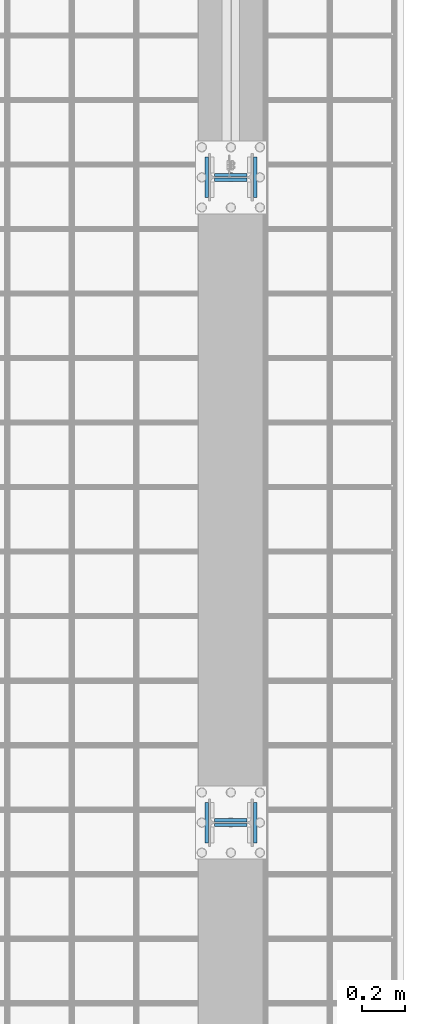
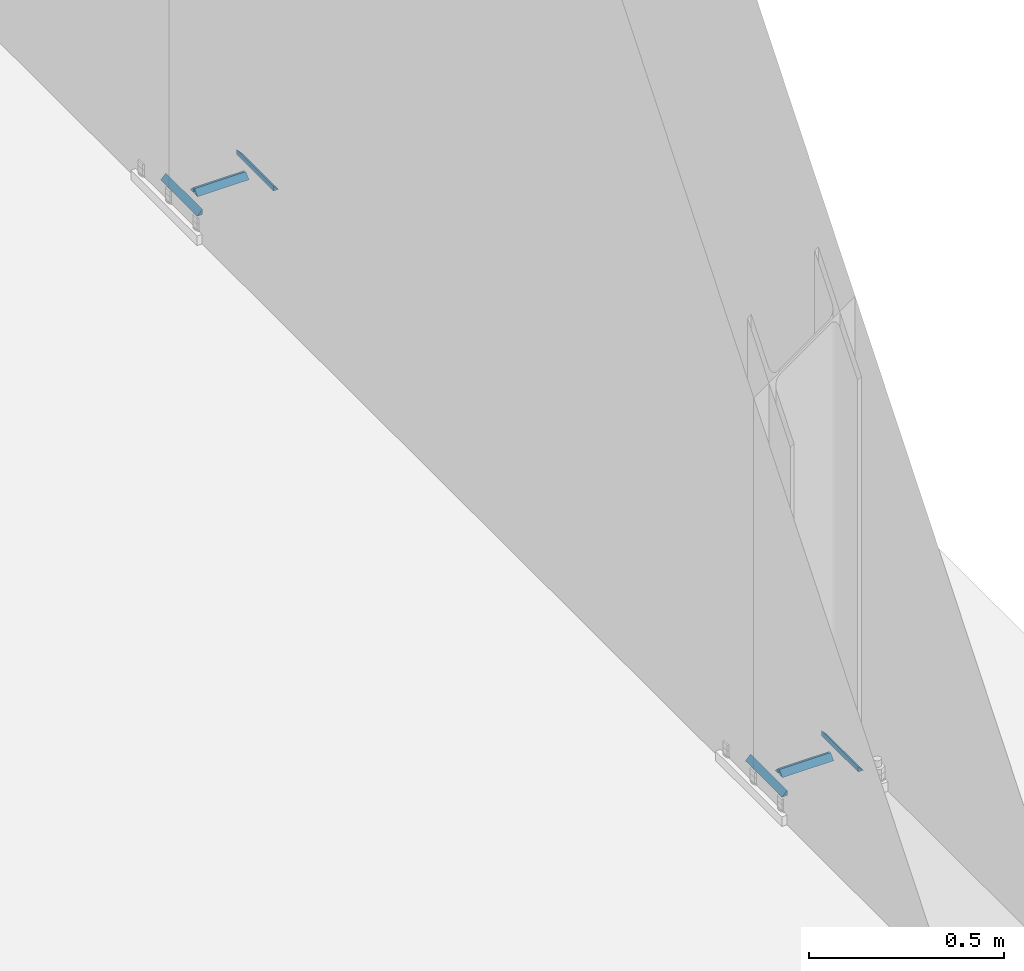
# One storey, part 10 of 29: 16 fasteners.
"""IFC4 building model written with IfcOpenShell, lengths in metres."""

import ifcopenshell
import ifcopenshell.guid

model = None  # the IFC model being written
_history = None  # IfcOwnerHistory: only IFC2X3 demands one
_inside = {}  # id of a spatial element -> (the spatial element, [elements in it])
_under = {}  # id of a project, library or spatial element -> (it, [spatial elements below it])
_declared = {}  # id of a project -> (the project, [libraries it declares])
_typed = {}  # id of a type object -> (the type object, [elements of that type])
_made_of = {}  # id of a material, layer set ... -> (it, [elements and type objects made of it])


def new_model(schema):
    """Start an empty IFC model of exactly this schema.

    Asked for "IFC4X3", IfcOpenShell would pick the latest addendum, in which some entities
    have other attributes; the version numbers below select the first issue.
    IFC2X3 requires an IfcOwnerHistory on every rooted entity: one is made here for all.
    """
    global model, _history
    if schema == "IFC4X3":
        model = ifcopenshell.file(schema_version=(4, 3, 0, 0))
    else:
        model = ifcopenshell.file(schema=schema)
    _inside.clear()
    _under.clear()
    _declared.clear()
    _typed.clear()
    _made_of.clear()
    _history = None
    if model.schema == "IFC2X3":
        org = make("IfcOrganization", Name="unknown")
        user = make(
            "IfcPersonAndOrganization",
            ThePerson=make("IfcPerson", FamilyName="unknown"),
            TheOrganization=org,
        )
        app = make(
            "IfcApplication",
            ApplicationDeveloper=org,
            Version="unknown",
            ApplicationFullName="unknown",
            ApplicationIdentifier="unknown",
        )
        _history = make(
            "IfcOwnerHistory",
            OwningUser=user,
            OwningApplication=app,
            ChangeAction="ADDED",
            CreationDate=0,
        )
    return model


def make(cls, **values):
    """One entity of the class cls with the attributes given. An attribute that is None is left unset."""
    return model.create_entity(
        cls, **{name: value for name, value in values.items() if value is not None}
    )


def rooted(cls, **values):
    """An entity with a GlobalId (a new one), such as an element, a storey or a relation."""
    return make(cls, GlobalId=ifcopenshell.guid.new(), OwnerHistory=_history, **values)


def si_unit(unit_type, name, prefix=None):
    """IfcSIUnit, for example si_unit("LENGTHUNIT", "METRE", prefix="MILLI")."""
    return make("IfcSIUnit", UnitType=unit_type, Prefix=prefix, Name=name)


def assignment(units):
    """IfcUnitAssignment: the units of a project."""
    return None if units is None else make("IfcUnitAssignment", Units=units)


def point(xyz):
    """IfcCartesianPoint."""
    return None if xyz is None else make("IfcCartesianPoint", Coordinates=xyz)


def direction(xyz):
    """IfcDirection."""
    return None if xyz is None else make("IfcDirection", DirectionRatios=xyz)


def frame(location, z_axis=None, x_axis=None):
    """IfcAxis2Placement3D, a coordinate frame: its origin and axes. An axis left out is left unset."""
    return make(
        "IfcAxis2Placement3D",
        Location=point(location),
        Axis=direction(z_axis),
        RefDirection=direction(x_axis),
    )


def origin_with_axes():
    """The frame at (0, 0, 0) with the z axis (0, 0, 1) and the x axis (1, 0, 0) written out."""
    return frame((0.0, 0.0, 0.0), z_axis=(0.0, 0.0, 1.0), x_axis=(1.0, 0.0, 0.0))


def place(relative_to, where):
    """IfcLocalPlacement: puts the frame where relative to a parent placement (None: the world)."""
    return make(
        "IfcLocalPlacement", PlacementRelTo=relative_to, RelativePlacement=where
    )


def context(
    kind, dimensions, precision=None, world=None, true_north=None, identifier=None
):
    """IfcGeometricRepresentationContext, for example the 3D "Model" context."""
    return make(
        "IfcGeometricRepresentationContext",
        ContextIdentifier=identifier,
        ContextType=kind,
        CoordinateSpaceDimension=dimensions,
        Precision=precision,
        WorldCoordinateSystem=world,
        TrueNorth=true_north,
    )


def project(units=None, contexts=None):
    """IfcProject with its units and contexts."""
    return rooted(
        "IfcProject",
        Name="project",
        RepresentationContexts=contexts,
        UnitsInContext=assignment(units),
    )


def spatial(cls, under=None, at=None, **own):
    """A site, building, storey or space (cls), placed at a placement, below another one or the project."""
    s = rooted(cls, ObjectPlacement=at, **own)
    if under is not None:
        _under.setdefault(under.id(), (under, []))[1].append(s)
    return s


def polyline(points):
    """IfcPolyline through the points."""
    return make("IfcPolyline", Points=[point(p) for p in points])


def outline(outer, holes=None, kind="AREA"):
    """IfcArbitraryClosedProfileDef: a profile drawn as a closed curve; with holes, ...WithVoids."""
    if holes is None:
        return make("IfcArbitraryClosedProfileDef", ProfileType=kind, OuterCurve=outer)
    return make(
        "IfcArbitraryProfileDefWithVoids",
        ProfileType=kind,
        OuterCurve=outer,
        InnerCurves=holes,
    )


def extrude(swept, where, along, depth):
    """IfcExtrudedAreaSolid: the profile swept, set in the frame where, extruded along a direction by depth."""
    return make(
        "IfcExtrudedAreaSolid",
        SweptArea=swept,
        Position=where,
        ExtrudedDirection=direction(along),
        Depth=depth,
    )


def shape(context_of_items, identifier, shape_type, items):
    """IfcShapeRepresentation: the items that make up one representation, for example the "Body"."""
    return make(
        "IfcShapeRepresentation",
        ContextOfItems=context_of_items,
        RepresentationIdentifier=identifier,
        RepresentationType=shape_type,
        Items=items,
    )


def made_of(thing, what):
    """Note that an element or type object is made of a material, layer set ...; save() writes the relation."""
    if what is not None:
        _made_of.setdefault(what.id(), (what, []))[1].append(thing)
    return thing


def type_object(cls, material=None, **own):
    """A type object (cls), such as IfcWallType, which elements share."""
    return made_of(rooted(cls, **own), material)


def element(
    cls,
    number,
    at=None,
    inside=None,
    cuts=None,
    type_object=None,
    material=None,
    context=None,
    identifier="Body",
    shape_type=None,
    held_by="IfcProductDefinitionShape",
    body=None,
    shapes=None,
    **own,
):
    """One element of the class cls, such as IfcWall. Its Tag is "e" and its number.

    at: its placement. inside: the storey or other place that contains it. cuts: it is an
    opening in that element (IfcRelVoidsElement). A single representation is given by context,
    identifier, shape_type and body (its items); several are given by shapes. held_by: the class
    of the entity that holds the representations. save() writes the other relations.
    """
    e = rooted(cls, Tag="e%d" % number, ObjectPlacement=at, **own)
    if body is not None:
        shapes = [shape(context, identifier, shape_type, body)]
    if shapes is not None:
        e.Representation = make(held_by, Representations=shapes)
    if inside is not None:
        _inside.setdefault(inside.id(), (inside, []))[1].append(e)
    if cuts is not None:
        rooted(
            "IfcRelVoidsElement", RelatingBuildingElement=cuts, RelatedOpeningElement=e
        )
    if type_object is not None:
        _typed.setdefault(type_object.id(), (type_object, []))[1].append(e)
    return made_of(e, material)


def aggregate(whole, parts):
    """IfcRelAggregates: a whole, such as a stair, and the parts it consists of."""
    return rooted("IfcRelAggregates", RelatingObject=whole, RelatedObjects=parts)


def save(model, path):
    """Write the relations noted so far, then the file.

    IfcRelAggregates (storeys below a building ...), IfcRelContainedInSpatialStructure (elements
    in a storey), IfcRelDefinesByType, IfcRelAssociatesMaterial and IfcRelDeclares: one each for
    every whole, place, type object, material and project.
    """
    for whole, parts in _under.values():
        aggregate(whole, parts)
    for where, things in _inside.values():
        rooted(
            "IfcRelContainedInSpatialStructure",
            RelatedElements=things,
            RelatingStructure=where,
        )
    for kind, things in _typed.values():
        rooted("IfcRelDefinesByType", RelatedObjects=things, RelatingType=kind)
    for what, things in _made_of.values():
        rooted("IfcRelAssociatesMaterial", RelatedObjects=things, RelatingMaterial=what)
    for by, libraries in _declared.values():
        rooted("IfcRelDeclares", RelatingContext=by, RelatedDefinitions=libraries)
    model.write(path)


model = new_model("IFC4")

# Units and contexts
model_context = context("Model", 3, precision=1e-05, world=origin_with_axes())
ifc_project = project(units=[si_unit("LENGTHUNIT", "METRE"), si_unit("AREAUNIT", "SQUARE_METRE"), si_unit("VOLUMEUNIT", "CUBIC_METRE"), si_unit("MASSUNIT", "GRAM", prefix="KILO"), si_unit("TIMEUNIT", "SECOND"), si_unit("PLANEANGLEUNIT", "RADIAN"), si_unit("SOLIDANGLEUNIT", "STERADIAN"), si_unit("THERMODYNAMICTEMPERATUREUNIT", "DEGREE_CELSIUS")], contexts=[model_context])

# Site, building, storey
placement_1 = place(None, origin_with_axes())
site = spatial("IfcSite", under=ifc_project, at=placement_1, Name="Italia", CompositionType="ELEMENT")
building = spatial("IfcBuilding", under=site, at=placement_1, Name="Capannone", CompositionType="ELEMENT")
storey = spatial("IfcBuildingStorey", under=building, at=placement_1, Name="Storey 0", CompositionType="ELEMENT", Elevation=0.0)

# Fasteners
fastener_type_1 = type_object("IfcFastenerType", Name="Collegamenti 0001_0101 0002_0102 0003_0103 0004_0104 0005_0105 0006_0106 0007_0107 0008_0108 0009_0109 0010_0110 0011_0111 0012_0112", PredefinedType="WELD")
placement_2 = place(placement_1, origin_with_axes())
fastener_1_placement = place(placement_2, origin_with_axes())
element("IfcFastener", 1, at=fastener_1_placement, inside=storey, type_object=fastener_type_1, Name="Collegamenti 0001_0101 0002_0102 0003_0103 0004_0104 0005_0105 0006_0106 0007_0107 0008_0108 0009_0109 0010_0110 0011_0111 0012_0112", context=model_context, shape_type="SweptSolid", body=[
    extrude(outline(polyline([(0.0, 0.0), (0.0156879, 0.0161734), (0.0156879, 0.0), (0.0, 0.0)])), frame((13.8794, 9.09405, 0.02995), z_axis=(0.0, -1.0, 0.0), x_axis=(1.0, 0.0, 0.0)), (0.0, 0.0, 1.0), 0.188101),
])
fastener_type_2 = type_object("IfcFastenerType", Name="Collegamenti 0001_0101 0002_0102 0003_0103 0004_0104 0005_0105 0006_0106 0007_0107 0008_0108 0009_0109 0010_0110 0011_0111 0012_0112", PredefinedType="WELD")
fastener_2_placement = place(placement_2, origin_with_axes())
element("IfcFastener", 2, at=fastener_2_placement, inside=storey, type_object=fastener_type_2, Name="Collegamenti 0001_0101 0002_0102 0003_0103 0004_0104 0005_0105 0006_0106 0007_0107 0008_0108 0009_0109 0010_0110 0011_0111 0012_0112", context=model_context, shape_type="SweptSolid", body=[
    extrude(outline(polyline([(0.0, 0.0), (0.0156879, 0.0161734), (0.0156879, 0.0), (0.0, 0.0)])), frame((14.1206, 8.90595, 0.02995), z_axis=(0.0, 1.0, 0.0), x_axis=(-1.0, 0.0, 0.0)), (0.0, 0.0, 1.0), 0.188101),
])
fastener_type_3 = type_object("IfcFastenerType", Name="Collegamenti 0001_0101 0002_0102 0003_0103 0004_0104 0005_0105 0006_0106 0007_0107 0008_0108 0009_0109 0010_0110 0011_0111 0012_0112", PredefinedType="WELD")
fastener_3_placement = place(placement_2, origin_with_axes())
element("IfcFastener", 3, at=fastener_3_placement, inside=storey, type_object=fastener_type_3, Name="Collegamenti 0001_0101 0002_0102 0003_0103 0004_0104 0005_0105 0006_0106 0007_0107 0008_0108 0009_0109 0010_0110 0011_0111 0012_0112", context=model_context, shape_type="SweptSolid", body=[
    extrude(outline(polyline([(0.0, 0.0), (0.0156879, 0.0161734), (0.0156879, 0.0), (0.0, 0.0)])), frame((14.076, 9.01914, 0.02995), z_axis=(-1.0, 0.0, 0.0), x_axis=(0.0, -1.0, 0.0)), (0.0, 0.0, 1.0), 0.1521),
])
fastener_type_4 = type_object("IfcFastenerType", Name="Collegamenti 0001_0101 0002_0102 0003_0103 0004_0104 0005_0105 0006_0106 0007_0107 0008_0108 0009_0109 0010_0110 0011_0111 0012_0112", PredefinedType="WELD")
fastener_4_placement = place(placement_2, origin_with_axes())
element("IfcFastener", 4, at=fastener_4_placement, inside=storey, type_object=fastener_type_4, Name="Collegamenti 0001_0101 0002_0102 0003_0103 0004_0104 0005_0105 0006_0106 0007_0107 0008_0108 0009_0109 0010_0110 0011_0111 0012_0112", context=model_context, shape_type="SweptSolid", body=[
    extrude(outline(polyline([(0.0, 0.0), (0.0156879, 0.0161734), (0.0156879, 0.0), (0.0, 0.0)])), frame((13.924, 8.98086, 0.02995), z_axis=(1.0, 0.0, 0.0), x_axis=(0.0, 1.0, 0.0)), (0.0, 0.0, 1.0), 0.1521),
])
fastener_type_5 = type_object("IfcFastenerType", Name="Collegamenti 0001_0101 0002_0102 0003_0103 0004_0104 0005_0105 0006_0106 0007_0107 0008_0108 0009_0109 0010_0110 0011_0111 0012_0112", PredefinedType="WELD")
fastener_5_placement = place(placement_2, origin_with_axes())
element("IfcFastener", 5, at=fastener_5_placement, inside=storey, type_object=fastener_type_5, Name="Collegamenti 0001_0101 0002_0102 0003_0103 0004_0104 0005_0105 0006_0106 0007_0107 0008_0108 0009_0109 0010_0110 0011_0111 0012_0112", context=model_context, shape_type="SweptSolid", body=[
    extrude(outline(polyline([(0.0, 0.0), (0.0156879, 0.0161734), (0.0156879, 0.0), (0.0, 0.0)])), frame((13.8794, 9.09405, 0.02995), z_axis=(0.0, -1.0, 0.0), x_axis=(1.0, 0.0, 0.0)), (0.0, 0.0, 1.0), 0.188101),
])
fastener_type_6 = type_object("IfcFastenerType", Name="Collegamenti 0001_0101 0002_0102 0003_0103 0004_0104 0005_0105 0006_0106 0007_0107 0008_0108 0009_0109 0010_0110 0011_0111 0012_0112", PredefinedType="WELD")
fastener_6_placement = place(placement_2, origin_with_axes())
element("IfcFastener", 6, at=fastener_6_placement, inside=storey, type_object=fastener_type_6, Name="Collegamenti 0001_0101 0002_0102 0003_0103 0004_0104 0005_0105 0006_0106 0007_0107 0008_0108 0009_0109 0010_0110 0011_0111 0012_0112", context=model_context, shape_type="SweptSolid", body=[
    extrude(outline(polyline([(0.0, 0.0), (0.0156879, 0.0161734), (0.0156879, 0.0), (0.0, 0.0)])), frame((14.1206, 8.90595, 0.02995), z_axis=(0.0, 1.0, 0.0), x_axis=(-1.0, 0.0, 0.0)), (0.0, 0.0, 1.0), 0.188101),
])
fastener_type_7 = type_object("IfcFastenerType", Name="Collegamenti 0001_0101 0002_0102 0003_0103 0004_0104 0005_0105 0006_0106 0007_0107 0008_0108 0009_0109 0010_0110 0011_0111 0012_0112", PredefinedType="WELD")
fastener_7_placement = place(placement_2, origin_with_axes())
element("IfcFastener", 7, at=fastener_7_placement, inside=storey, type_object=fastener_type_7, Name="Collegamenti 0001_0101 0002_0102 0003_0103 0004_0104 0005_0105 0006_0106 0007_0107 0008_0108 0009_0109 0010_0110 0011_0111 0012_0112", context=model_context, shape_type="SweptSolid", body=[
    extrude(outline(polyline([(0.0, 0.0), (0.0156879, 0.0161734), (0.0156879, 0.0), (0.0, 0.0)])), frame((14.076, 9.01914, 0.02995), z_axis=(-1.0, 0.0, 0.0), x_axis=(0.0, -1.0, 0.0)), (0.0, 0.0, 1.0), 0.1521),
])
fastener_type_8 = type_object("IfcFastenerType", Name="Collegamenti 0001_0101 0002_0102 0003_0103 0004_0104 0005_0105 0006_0106 0007_0107 0008_0108 0009_0109 0010_0110 0011_0111 0012_0112", PredefinedType="WELD")
fastener_8_placement = place(placement_2, origin_with_axes())
element("IfcFastener", 8, at=fastener_8_placement, inside=storey, type_object=fastener_type_8, Name="Collegamenti 0001_0101 0002_0102 0003_0103 0004_0104 0005_0105 0006_0106 0007_0107 0008_0108 0009_0109 0010_0110 0011_0111 0012_0112", context=model_context, shape_type="SweptSolid", body=[
    extrude(outline(polyline([(0.0, 0.0), (0.0156879, 0.0161734), (0.0156879, 0.0), (0.0, 0.0)])), frame((13.924, 8.98086, 0.02995), z_axis=(1.0, 0.0, 0.0), x_axis=(0.0, 1.0, 0.0)), (0.0, 0.0, 1.0), 0.1521),
])
fastener_type_9 = type_object("IfcFastenerType", Name="Collegamenti 0001_0101 0002_0102 0003_0103 0004_0104 0005_0105 0006_0106 0007_0107 0008_0108 0009_0109 0010_0110 0011_0111 0012_0112", PredefinedType="WELD")
fastener_9_placement = place(placement_2, origin_with_axes())
element("IfcFastener", 9, at=fastener_9_placement, inside=storey, type_object=fastener_type_9, Name="Collegamenti 0001_0101 0002_0102 0003_0103 0004_0104 0005_0105 0006_0106 0007_0107 0008_0108 0009_0109 0010_0110 0011_0111 0012_0112", context=model_context, shape_type="SweptSolid", body=[
    extrude(outline(polyline([(0.0, 0.0), (0.0156879, 0.0161734), (0.0156879, 0.0), (0.0, 0.0)])), frame((13.8794, 12.0941, 0.02995), z_axis=(0.0, -1.0, 0.0), x_axis=(1.0, 0.0, 0.0)), (0.0, 0.0, 1.0), 0.188101),
])
fastener_type_10 = type_object("IfcFastenerType", Name="Collegamenti 0001_0101 0002_0102 0003_0103 0004_0104 0005_0105 0006_0106 0007_0107 0008_0108 0009_0109 0010_0110 0011_0111 0012_0112", PredefinedType="WELD")
fastener_10_placement = place(placement_2, origin_with_axes())
element("IfcFastener", 10, at=fastener_10_placement, inside=storey, type_object=fastener_type_10, Name="Collegamenti 0001_0101 0002_0102 0003_0103 0004_0104 0005_0105 0006_0106 0007_0107 0008_0108 0009_0109 0010_0110 0011_0111 0012_0112", context=model_context, shape_type="SweptSolid", body=[
    extrude(outline(polyline([(0.0, 0.0), (0.0156879, 0.0161734), (0.0156879, 0.0), (0.0, 0.0)])), frame((14.1206, 11.9059, 0.02995), z_axis=(0.0, 1.0, 0.0), x_axis=(-1.0, 0.0, 0.0)), (0.0, 0.0, 1.0), 0.188101),
])
fastener_type_11 = type_object("IfcFastenerType", Name="Collegamenti 0001_0101 0002_0102 0003_0103 0004_0104 0005_0105 0006_0106 0007_0107 0008_0108 0009_0109 0010_0110 0011_0111 0012_0112", PredefinedType="WELD")
fastener_11_placement = place(placement_2, origin_with_axes())
element("IfcFastener", 11, at=fastener_11_placement, inside=storey, type_object=fastener_type_11, Name="Collegamenti 0001_0101 0002_0102 0003_0103 0004_0104 0005_0105 0006_0106 0007_0107 0008_0108 0009_0109 0010_0110 0011_0111 0012_0112", context=model_context, shape_type="SweptSolid", body=[
    extrude(outline(polyline([(0.0, 0.0), (0.0156879, 0.0161734), (0.0156879, 0.0), (0.0, 0.0)])), frame((14.076, 12.0191, 0.02995), z_axis=(-1.0, 0.0, 0.0), x_axis=(0.0, -1.0, 0.0)), (0.0, 0.0, 1.0), 0.1521),
])
fastener_type_12 = type_object("IfcFastenerType", Name="Collegamenti 0001_0101 0002_0102 0003_0103 0004_0104 0005_0105 0006_0106 0007_0107 0008_0108 0009_0109 0010_0110 0011_0111 0012_0112", PredefinedType="WELD")
fastener_12_placement = place(placement_2, origin_with_axes())
element("IfcFastener", 12, at=fastener_12_placement, inside=storey, type_object=fastener_type_12, Name="Collegamenti 0001_0101 0002_0102 0003_0103 0004_0104 0005_0105 0006_0106 0007_0107 0008_0108 0009_0109 0010_0110 0011_0111 0012_0112", context=model_context, shape_type="SweptSolid", body=[
    extrude(outline(polyline([(0.0, 0.0), (0.0156879, 0.0161734), (0.0156879, 0.0), (0.0, 0.0)])), frame((13.924, 11.9809, 0.02995), z_axis=(1.0, 0.0, 0.0), x_axis=(0.0, 1.0, 0.0)), (0.0, 0.0, 1.0), 0.1521),
])
fastener_type_13 = type_object("IfcFastenerType", Name="Collegamenti 0001_0101 0002_0102 0003_0103 0004_0104 0005_0105 0006_0106 0007_0107 0008_0108 0009_0109 0010_0110 0011_0111 0012_0112", PredefinedType="WELD")
fastener_13_placement = place(placement_2, origin_with_axes())
element("IfcFastener", 13, at=fastener_13_placement, inside=storey, type_object=fastener_type_13, Name="Collegamenti 0001_0101 0002_0102 0003_0103 0004_0104 0005_0105 0006_0106 0007_0107 0008_0108 0009_0109 0010_0110 0011_0111 0012_0112", context=model_context, shape_type="SweptSolid", body=[
    extrude(outline(polyline([(0.0, 0.0), (0.0156879, 0.0161734), (0.0156879, 0.0), (0.0, 0.0)])), frame((13.8794, 12.0941, 0.02995), z_axis=(0.0, -1.0, 0.0), x_axis=(1.0, 0.0, 0.0)), (0.0, 0.0, 1.0), 0.188101),
])
fastener_type_14 = type_object("IfcFastenerType", Name="Collegamenti 0001_0101 0002_0102 0003_0103 0004_0104 0005_0105 0006_0106 0007_0107 0008_0108 0009_0109 0010_0110 0011_0111 0012_0112", PredefinedType="WELD")
fastener_14_placement = place(placement_2, origin_with_axes())
element("IfcFastener", 14, at=fastener_14_placement, inside=storey, type_object=fastener_type_14, Name="Collegamenti 0001_0101 0002_0102 0003_0103 0004_0104 0005_0105 0006_0106 0007_0107 0008_0108 0009_0109 0010_0110 0011_0111 0012_0112", context=model_context, shape_type="SweptSolid", body=[
    extrude(outline(polyline([(0.0, 0.0), (0.0156879, 0.0161734), (0.0156879, 0.0), (0.0, 0.0)])), frame((14.1206, 11.9059, 0.02995), z_axis=(0.0, 1.0, 0.0), x_axis=(-1.0, 0.0, 0.0)), (0.0, 0.0, 1.0), 0.188101),
])
fastener_type_15 = type_object("IfcFastenerType", Name="Collegamenti 0001_0101 0002_0102 0003_0103 0004_0104 0005_0105 0006_0106 0007_0107 0008_0108 0009_0109 0010_0110 0011_0111 0012_0112", PredefinedType="WELD")
fastener_15_placement = place(placement_2, origin_with_axes())
element("IfcFastener", 15, at=fastener_15_placement, inside=storey, type_object=fastener_type_15, Name="Collegamenti 0001_0101 0002_0102 0003_0103 0004_0104 0005_0105 0006_0106 0007_0107 0008_0108 0009_0109 0010_0110 0011_0111 0012_0112", context=model_context, shape_type="SweptSolid", body=[
    extrude(outline(polyline([(0.0, 0.0), (0.0156879, 0.0161734), (0.0156879, 0.0), (0.0, 0.0)])), frame((14.076, 12.0191, 0.02995), z_axis=(-1.0, 0.0, 0.0), x_axis=(0.0, -1.0, 0.0)), (0.0, 0.0, 1.0), 0.1521),
])
fastener_type_16 = type_object("IfcFastenerType", Name="Collegamenti 0001_0101 0002_0102 0003_0103 0004_0104 0005_0105 0006_0106 0007_0107 0008_0108 0009_0109 0010_0110 0011_0111 0012_0112", PredefinedType="WELD")
fastener_16_placement = place(placement_2, origin_with_axes())
element("IfcFastener", 16, at=fastener_16_placement, inside=storey, type_object=fastener_type_16, Name="Collegamenti 0001_0101 0002_0102 0003_0103 0004_0104 0005_0105 0006_0106 0007_0107 0008_0108 0009_0109 0010_0110 0011_0111 0012_0112", context=model_context, shape_type="SweptSolid", body=[
    extrude(outline(polyline([(0.0, 0.0), (0.0156879, 0.0161734), (0.0156879, 0.0), (0.0, 0.0)])), frame((13.924, 11.9809, 0.02995), z_axis=(1.0, 0.0, 0.0), x_axis=(0.0, 1.0, 0.0)), (0.0, 0.0, 1.0), 0.1521),
])

save(model, "model.ifc")
